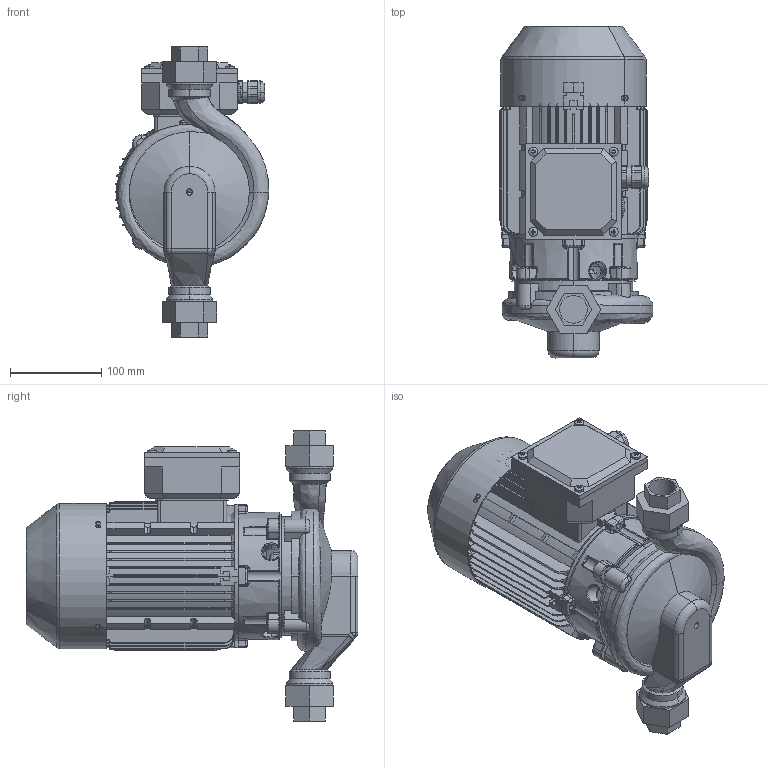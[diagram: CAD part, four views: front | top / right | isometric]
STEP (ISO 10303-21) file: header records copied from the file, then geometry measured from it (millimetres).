
FILE_DESCRIPTION(('STEP AP214'),'1');
FILE_NAME('export.stp','2018-05-28T09:19:07',(' '),(' '),'Spatial InterOp 3D',' ',' ');
FILE_SCHEMA(('AUTOMOTIVE_DESIGN { 1 0 10303 214 1 1 1 1 }'));
Length unit declared in the file: millimetre
Products named in the file (25): W_AE262110_KP80; V_TLAEAP202526; V_PPAE26; 160018; 160002_Valu; V_KP80-1_N12; M5x8_DIN; DIN_7985-M5X8; 160141; M5x12_DIN; DIN_7985-M5X12; 160137; 160138; 160139; 160140; Koura_Ale_M5; Plug_Blind_M20; Sealing_Plug_M20; plain_washer_grade_a_din_Washer_; 160039___; 160040___; 160133
Assembly tree (27 placements, depth 5):
  W_AE262110_KP80
    V_TLAEAP202526
    V_PPAE26
    V_KP80-1_N12
      160018
        160002_Valu
      160141
        M5x8_DIN
          DIN_7985-M5X8
        M5x12_DIN
          DIN_7985-M5X12
        M5x12_DIN
          DIN_7985-M5X12
        M5x12_DIN
          DIN_7985-M5X12
        M5x12_DIN
          DIN_7985-M5X12
        160137
        160138
        160139
        160140
        Koura_Ale_M5
        Plug_Blind_M20
        Sealing_Plug_M20
        plain_washer_grade_a_din_Washer_
      160039___
      160040___
      160133
Bounding box: 168.5 x 363.75 x 318 mm (x, y, z)
Volume: 2087612.1 mm3; surface area: 796109.8 mm2
Topology: 19 solids, 19 shells, 2914 faces, 7583 edges, 4721 vertices
Faces by surface type: plane 1110, cylinder 850, bspline 434, torus 305, cone 145, sphere 70
Entity records: 119758 total; most frequent: CARTESIAN_POINT 50292, ORIENTED_EDGE 14750, DIRECTION 13129, EDGE_CURVE 7375, AXIS2_PLACEMENT_3D 4945, VERTEX_POINT 4625, LINE 3239, VECTOR 3239
